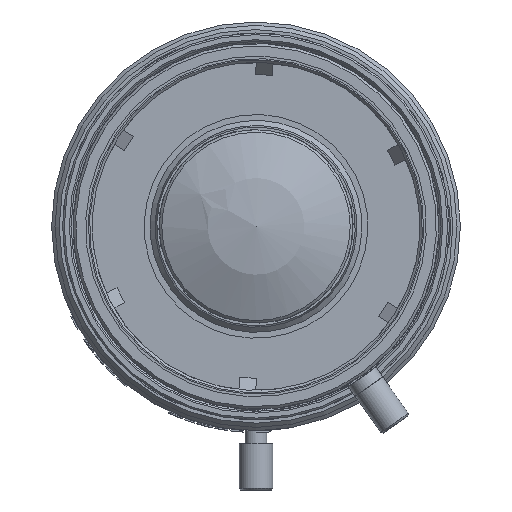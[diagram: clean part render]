
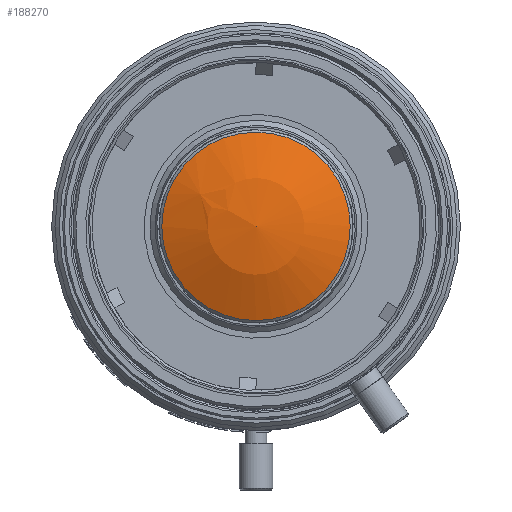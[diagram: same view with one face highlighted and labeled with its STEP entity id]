
A CAD part, front view. The second image highlights one B-rep face of the part: STEP entity #188270.
In plain terms, the highlighted spherical face has radius 25.116 mm.
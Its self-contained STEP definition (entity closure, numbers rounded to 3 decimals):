
#188182 = CONICAL_SURFACE('',#188183,11.5,0.785);
#188183 = AXIS2_PLACEMENT_3D('',#188184,#188185,#188186);
#188184 = CARTESIAN_POINT('',(0.,-58.267,
    0.));
#188185 = DIRECTION('',(0.,1.,0.));
#188186 = DIRECTION('',(0.867,0.,
    -0.499));
#188220 = EDGE_CURVE('',#188221,#188221,#188223,.T.);
#188221 = VERTEX_POINT('',#188222);
#188222 = CARTESIAN_POINT('',(-9.707,-58.567,
    5.586));
#188223 = SURFACE_CURVE('',#188224,(#188229,#188236),.PCURVE_S1.);
#188224 = CIRCLE('',#188225,11.2);
#188225 = AXIS2_PLACEMENT_3D('',#188226,#188227,#188228);
#188226 = CARTESIAN_POINT('',(0.,-58.567,
    0.));
#188227 = DIRECTION('',(0.,-1.,0.));
#188228 = DIRECTION('',(-0.867,0.,
    0.499));
#188229 = PCURVE('',#188182,#188230);
#188230 = DEFINITIONAL_REPRESENTATION('',(#188231),#188235);
#188231 = LINE('',#188232,#188233);
#188232 = CARTESIAN_POINT('',(9.425,-0.3));
#188233 = VECTOR('',#188234,1.);
#188234 = DIRECTION('',(-1.,0.));
#188235 = ( GEOMETRIC_REPRESENTATION_CONTEXT(2) 
PARAMETRIC_REPRESENTATION_CONTEXT() REPRESENTATION_CONTEXT('',''
  ) );
#188236 = PCURVE('',#188237,#188242);
#188237 = SPHERICAL_SURFACE('',#188238,25.116);
#188238 = AXIS2_PLACEMENT_3D('',#188239,#188240,#188241);
#188239 = CARTESIAN_POINT('',(0.,-36.087,
    0.));
#188240 = DIRECTION('',(0.,-1.,0.));
#188241 = DIRECTION('',(-0.867,0.,
    0.499));
#188242 = DEFINITIONAL_REPRESENTATION('',(#188243),#188247);
#188243 = LINE('',#188244,#188245);
#188244 = CARTESIAN_POINT('',(0.,1.109));
#188245 = VECTOR('',#188246,1.);
#188246 = DIRECTION('',(1.,0.));
#188247 = ( GEOMETRIC_REPRESENTATION_CONTEXT(2) 
PARAMETRIC_REPRESENTATION_CONTEXT() REPRESENTATION_CONTEXT('',''
  ) );
#188270 = ADVANCED_FACE('',(#188271),#188237,.T.);
#188271 = FACE_BOUND('',#188272,.T.);
#188272 = EDGE_LOOP('',(#188273,#188274,#188300));
#188273 = ORIENTED_EDGE('',*,*,#188220,.T.);
#188274 = ORIENTED_EDGE('',*,*,#188275,.T.);
#188275 = EDGE_CURVE('',#188221,#188276,#188278,.T.);
#188276 = VERTEX_POINT('',#188277);
#188277 = CARTESIAN_POINT('',(0.,-61.203,
    0.));
#188278 = SEAM_CURVE('',#188279,(#188286,#188293),.PCURVE_S1.);
#188279 = B_SPLINE_CURVE_WITH_KNOTS('',5,(#188280,#188281,#188282,
    #188283,#188284,#188285),.UNSPECIFIED.,.F.,.F.,(6,6),(1.109
    ,1.571),.PIECEWISE_BEZIER_KNOTS.);
#188280 = CARTESIAN_POINT('',(-9.707,-58.567,
    5.586));
#188281 = CARTESIAN_POINT('',(-7.906,-59.603,
    4.55));
#188282 = CARTESIAN_POINT('',(-6.001,-60.398,
    3.454));
#188283 = CARTESIAN_POINT('',(-4.025,-60.935,
    2.316));
#188284 = CARTESIAN_POINT('',(-2.012,-61.203,
    1.158));
#188285 = CARTESIAN_POINT('',(0.,-61.203,
    0.));
#188286 = PCURVE('',#188237,#188287);
#188287 = DEFINITIONAL_REPRESENTATION('',(#188288),#188292);
#188288 = LINE('',#188289,#188290);
#188289 = CARTESIAN_POINT('',(6.283,0.));
#188290 = VECTOR('',#188291,1.);
#188291 = DIRECTION('',(0.,1.));
#188292 = ( GEOMETRIC_REPRESENTATION_CONTEXT(2) 
PARAMETRIC_REPRESENTATION_CONTEXT() REPRESENTATION_CONTEXT('',''
  ) );
#188293 = PCURVE('',#188237,#188294);
#188294 = DEFINITIONAL_REPRESENTATION('',(#188295),#188299);
#188295 = LINE('',#188296,#188297);
#188296 = CARTESIAN_POINT('',(0.,0.));
#188297 = VECTOR('',#188298,1.);
#188298 = DIRECTION('',(0.,1.));
#188299 = ( GEOMETRIC_REPRESENTATION_CONTEXT(2) 
PARAMETRIC_REPRESENTATION_CONTEXT() REPRESENTATION_CONTEXT('',''
  ) );
#188300 = ORIENTED_EDGE('',*,*,#188275,.F.);
